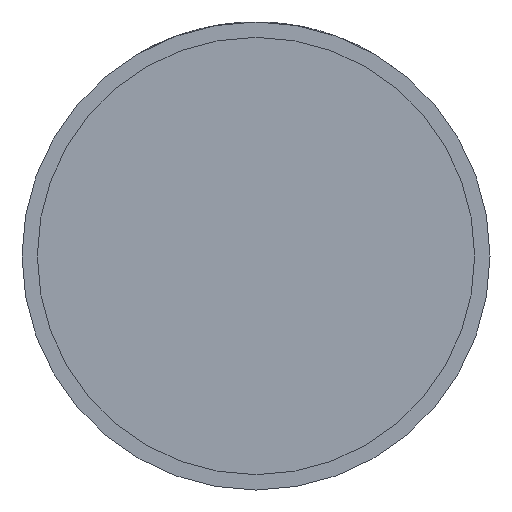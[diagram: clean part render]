
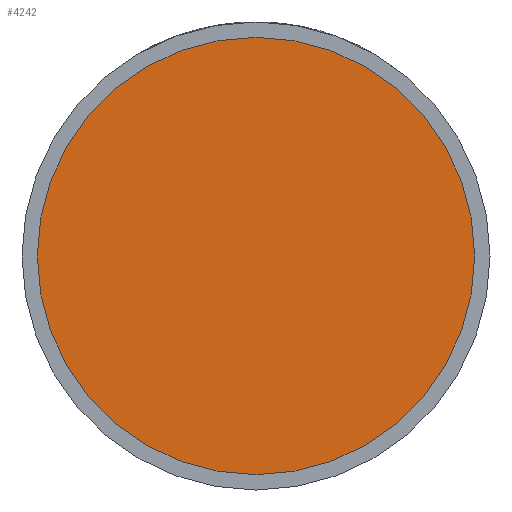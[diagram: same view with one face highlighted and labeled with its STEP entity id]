
A CAD part, front view. The second image highlights one B-rep face of the part: STEP entity #4242.
In plain terms, the highlighted planar face has unit normal (0, -1, 0).
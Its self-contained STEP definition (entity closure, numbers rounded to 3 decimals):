
#228 = DIRECTION ( 'NONE',  ( 0., -1., 0. ) ) ;
#480 = DIRECTION ( 'NONE',  ( 0., -1., 0. ) ) ;
#709 = EDGE_CURVE ( 'NONE', #4191, #4195, #1346, .T. ) ;
#763 = CARTESIAN_POINT ( 'NONE',  ( 28.5, -17.5, 0. ) ) ;
#1346 = CIRCLE ( 'NONE', #1903, 28.5 ) ;
#1665 = EDGE_CURVE ( 'NONE', #4195, #4191, #3657, .T. ) ;
#1782 = AXIS2_PLACEMENT_3D ( 'NONE', #3916, #228, #1919 ) ;
#1882 = ORIENTED_EDGE ( 'NONE', *, *, #1665, .T. ) ;
#1903 = AXIS2_PLACEMENT_3D ( 'NONE', #3865, #2845, #3884 ) ;
#1919 = DIRECTION ( 'NONE',  ( 1., 0., 0. ) ) ;
#2458 = FACE_OUTER_BOUND ( 'NONE', #3670, .T. ) ;
#2784 = DIRECTION ( 'NONE',  ( 1., 0., 0. ) ) ;
#2845 = DIRECTION ( 'NONE',  ( 0., -1., 0. ) ) ;
#3023 = ORIENTED_EDGE ( 'NONE', *, *, #709, .T. ) ;
#3134 = PLANE ( 'NONE',  #3410 ) ;
#3410 = AXIS2_PLACEMENT_3D ( 'NONE', #763, #480, #2784 ) ;
#3657 = CIRCLE ( 'NONE', #1782, 28.5 ) ;
#3670 = EDGE_LOOP ( 'NONE', ( #3023, #1882 ) ) ;
#3783 = CARTESIAN_POINT ( 'NONE',  ( -28.5, -17.5, 0. ) ) ;
#3865 = CARTESIAN_POINT ( 'NONE',  ( 0., -17.5, 0. ) ) ;
#3884 = DIRECTION ( 'NONE',  ( 1., 0., 0. ) ) ;
#3916 = CARTESIAN_POINT ( 'NONE',  ( 0., -17.5, 0. ) ) ;
#4125 = CARTESIAN_POINT ( 'NONE',  ( 28.5, -17.5, 0. ) ) ;
#4191 = VERTEX_POINT ( 'NONE', #4125 ) ;
#4195 = VERTEX_POINT ( 'NONE', #3783 ) ;
#4242 = ADVANCED_FACE ( 'NONE', ( #2458 ), #3134, .T. ) ;
